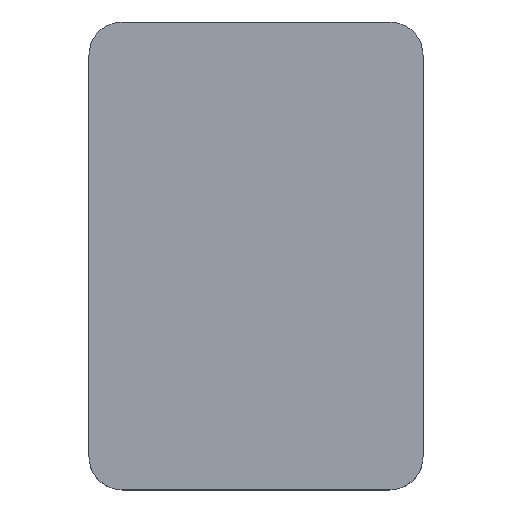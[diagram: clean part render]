
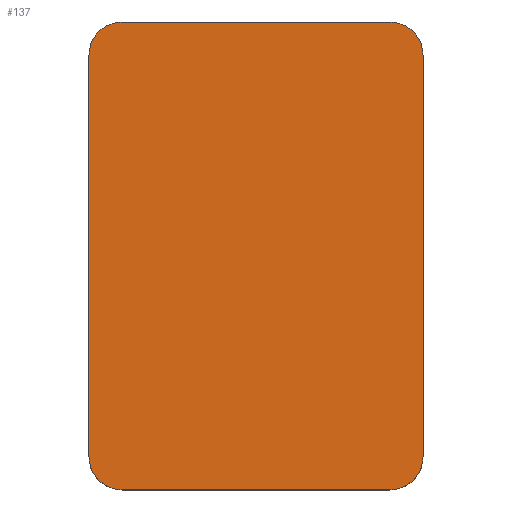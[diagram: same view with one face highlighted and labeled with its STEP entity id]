
A CAD part, top view. The second image highlights one B-rep face of the part: STEP entity #137.
In plain terms, the highlighted planar face has unit normal (0, 0, 1).
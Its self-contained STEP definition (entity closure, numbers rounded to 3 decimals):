
#21 = EDGE_CURVE('',#22,#24,#26,.T.);
#22 = VERTEX_POINT('',#23);
#23 = CARTESIAN_POINT('',(-5.,-21.5,15.2));
#24 = VERTEX_POINT('',#25);
#25 = CARTESIAN_POINT('',(-5.,-9.5,15.2));
#26 = SURFACE_CURVE('',#27,(#31,#43),.PCURVE_S1.);
#27 = LINE('',#28,#29);
#28 = CARTESIAN_POINT('',(-5.,-22.5,15.2));
#29 = VECTOR('',#30,1.);
#30 = DIRECTION('',(0.,1.,0.));
#31 = PCURVE('',#32,#37);
#32 = PLANE('',#33);
#33 = AXIS2_PLACEMENT_3D('',#34,#35,#36);
#34 = CARTESIAN_POINT('',(-5.,-22.5,13.2));
#35 = DIRECTION('',(1.,0.,0.));
#36 = DIRECTION('',(0.,0.,1.));
#37 = DEFINITIONAL_REPRESENTATION('',(#38),#42);
#38 = LINE('',#39,#40);
#39 = CARTESIAN_POINT('',(2.,0.));
#40 = VECTOR('',#41,1.);
#41 = DIRECTION('',(0.,-1.));
#42 = ( GEOMETRIC_REPRESENTATION_CONTEXT(2) 
PARAMETRIC_REPRESENTATION_CONTEXT() REPRESENTATION_CONTEXT('2D SPACE',''
  ) );
#43 = PCURVE('',#44,#49);
#44 = PLANE('',#45);
#45 = AXIS2_PLACEMENT_3D('',#46,#47,#48);
#46 = CARTESIAN_POINT('',(-5.,-22.5,15.2));
#47 = DIRECTION('',(0.,0.,1.));
#48 = DIRECTION('',(1.,0.,0.));
#49 = DEFINITIONAL_REPRESENTATION('',(#50),#54);
#50 = LINE('',#51,#52);
#51 = CARTESIAN_POINT('',(0.,0.));
#52 = VECTOR('',#53,1.);
#53 = DIRECTION('',(0.,1.));
#54 = ( GEOMETRIC_REPRESENTATION_CONTEXT(2) 
PARAMETRIC_REPRESENTATION_CONTEXT() REPRESENTATION_CONTEXT('2D SPACE',''
  ) );
#72 = CYLINDRICAL_SURFACE('',#73,1.);
#73 = AXIS2_PLACEMENT_3D('',#74,#75,#76);
#74 = CARTESIAN_POINT('',(-4.,-21.5,13.2));
#75 = DIRECTION('',(0.,0.,1.));
#76 = DIRECTION('',(-1.,-0.,0.));
#126 = CYLINDRICAL_SURFACE('',#127,1.);
#127 = AXIS2_PLACEMENT_3D('',#128,#129,#130);
#128 = CARTESIAN_POINT('',(-4.,-9.5,13.2));
#129 = DIRECTION('',(0.,0.,1.));
#130 = DIRECTION('',(-1.,-0.,0.));
#137 = ADVANCED_FACE('',(#138),#44,.T.);
#138 = FACE_BOUND('',#139,.T.);
#139 = EDGE_LOOP('',(#140,#141,#165,#193,#226,#254,#283,#311));
#140 = ORIENTED_EDGE('',*,*,#21,.F.);
#141 = ORIENTED_EDGE('',*,*,#142,.T.);
#142 = EDGE_CURVE('',#22,#143,#145,.T.);
#143 = VERTEX_POINT('',#144);
#144 = CARTESIAN_POINT('',(-4.,-22.5,15.2));
#145 = SURFACE_CURVE('',#146,(#151,#158),.PCURVE_S1.);
#146 = CIRCLE('',#147,1.);
#147 = AXIS2_PLACEMENT_3D('',#148,#149,#150);
#148 = CARTESIAN_POINT('',(-4.,-21.5,15.2));
#149 = DIRECTION('',(0.,0.,1.));
#150 = DIRECTION('',(0.,-1.,0.));
#151 = PCURVE('',#44,#152);
#152 = DEFINITIONAL_REPRESENTATION('',(#153),#157);
#153 = CIRCLE('',#154,1.);
#154 = AXIS2_PLACEMENT_2D('',#155,#156);
#155 = CARTESIAN_POINT('',(1.,1.));
#156 = DIRECTION('',(0.,-1.));
#157 = ( GEOMETRIC_REPRESENTATION_CONTEXT(2) 
PARAMETRIC_REPRESENTATION_CONTEXT() REPRESENTATION_CONTEXT('2D SPACE',''
  ) );
#158 = PCURVE('',#72,#159);
#159 = DEFINITIONAL_REPRESENTATION('',(#160),#164);
#160 = LINE('',#161,#162);
#161 = CARTESIAN_POINT('',(-4.712,2.));
#162 = VECTOR('',#163,1.);
#163 = DIRECTION('',(1.,0.));
#164 = ( GEOMETRIC_REPRESENTATION_CONTEXT(2) 
PARAMETRIC_REPRESENTATION_CONTEXT() REPRESENTATION_CONTEXT('2D SPACE',''
  ) );
#165 = ORIENTED_EDGE('',*,*,#166,.T.);
#166 = EDGE_CURVE('',#143,#167,#169,.T.);
#167 = VERTEX_POINT('',#168);
#168 = CARTESIAN_POINT('',(4.,-22.5,15.2));
#169 = SURFACE_CURVE('',#170,(#174,#181),.PCURVE_S1.);
#170 = LINE('',#171,#172);
#171 = CARTESIAN_POINT('',(-5.,-22.5,15.2));
#172 = VECTOR('',#173,1.);
#173 = DIRECTION('',(1.,0.,0.));
#174 = PCURVE('',#44,#175);
#175 = DEFINITIONAL_REPRESENTATION('',(#176),#180);
#176 = LINE('',#177,#178);
#177 = CARTESIAN_POINT('',(0.,0.));
#178 = VECTOR('',#179,1.);
#179 = DIRECTION('',(1.,0.));
#180 = ( GEOMETRIC_REPRESENTATION_CONTEXT(2) 
PARAMETRIC_REPRESENTATION_CONTEXT() REPRESENTATION_CONTEXT('2D SPACE',''
  ) );
#181 = PCURVE('',#182,#187);
#182 = PLANE('',#183);
#183 = AXIS2_PLACEMENT_3D('',#184,#185,#186);
#184 = CARTESIAN_POINT('',(-5.,-22.5,13.2));
#185 = DIRECTION('',(0.,1.,0.));
#186 = DIRECTION('',(0.,0.,1.));
#187 = DEFINITIONAL_REPRESENTATION('',(#188),#192);
#188 = LINE('',#189,#190);
#189 = CARTESIAN_POINT('',(2.,0.));
#190 = VECTOR('',#191,1.);
#191 = DIRECTION('',(0.,1.));
#192 = ( GEOMETRIC_REPRESENTATION_CONTEXT(2) 
PARAMETRIC_REPRESENTATION_CONTEXT() REPRESENTATION_CONTEXT('2D SPACE',''
  ) );
#193 = ORIENTED_EDGE('',*,*,#194,.F.);
#194 = EDGE_CURVE('',#195,#167,#197,.T.);
#195 = VERTEX_POINT('',#196);
#196 = CARTESIAN_POINT('',(5.,-21.5,15.2));
#197 = SURFACE_CURVE('',#198,(#203,#214),.PCURVE_S1.);
#198 = CIRCLE('',#199,1.);
#199 = AXIS2_PLACEMENT_3D('',#200,#201,#202);
#200 = CARTESIAN_POINT('',(4.,-21.5,15.2));
#201 = DIRECTION('',(-0.,-0.,-1.));
#202 = DIRECTION('',(0.,-1.,0.));
#203 = PCURVE('',#44,#204);
#204 = DEFINITIONAL_REPRESENTATION('',(#205),#213);
#205 = ( BOUNDED_CURVE() B_SPLINE_CURVE(2,(#206,#207,#208,#209,#210,#211
,#212),.UNSPECIFIED.,.T.,.F.) B_SPLINE_CURVE_WITH_KNOTS((1,2,2,2,2,1),(
    -2.094,0.,2.094,4.189,6.283,
8.378),.UNSPECIFIED.) CURVE() GEOMETRIC_REPRESENTATION_ITEM() 
RATIONAL_B_SPLINE_CURVE((1.,0.5,1.,0.5,1.,0.5,1.)) REPRESENTATION_ITEM(
  '') );
#206 = CARTESIAN_POINT('',(9.,0.));
#207 = CARTESIAN_POINT('',(7.268,0.));
#208 = CARTESIAN_POINT('',(8.134,1.5));
#209 = CARTESIAN_POINT('',(9.,3.));
#210 = CARTESIAN_POINT('',(9.866,1.5));
#211 = CARTESIAN_POINT('',(10.732,0.));
#212 = CARTESIAN_POINT('',(9.,0.));
#213 = ( GEOMETRIC_REPRESENTATION_CONTEXT(2) 
PARAMETRIC_REPRESENTATION_CONTEXT() REPRESENTATION_CONTEXT('2D SPACE',''
  ) );
#214 = PCURVE('',#215,#220);
#215 = CYLINDRICAL_SURFACE('',#216,1.);
#216 = AXIS2_PLACEMENT_3D('',#217,#218,#219);
#217 = CARTESIAN_POINT('',(4.,-21.5,13.2));
#218 = DIRECTION('',(0.,0.,1.));
#219 = DIRECTION('',(1.,0.,-0.));
#220 = DEFINITIONAL_REPRESENTATION('',(#221),#225);
#221 = LINE('',#222,#223);
#222 = CARTESIAN_POINT('',(4.712,2.));
#223 = VECTOR('',#224,1.);
#224 = DIRECTION('',(-1.,0.));
#225 = ( GEOMETRIC_REPRESENTATION_CONTEXT(2) 
PARAMETRIC_REPRESENTATION_CONTEXT() REPRESENTATION_CONTEXT('2D SPACE',''
  ) );
#226 = ORIENTED_EDGE('',*,*,#227,.T.);
#227 = EDGE_CURVE('',#195,#228,#230,.T.);
#228 = VERTEX_POINT('',#229);
#229 = CARTESIAN_POINT('',(5.,-9.5,15.2));
#230 = SURFACE_CURVE('',#231,(#235,#242),.PCURVE_S1.);
#231 = LINE('',#232,#233);
#232 = CARTESIAN_POINT('',(5.,-22.5,15.2));
#233 = VECTOR('',#234,1.);
#234 = DIRECTION('',(0.,1.,0.));
#235 = PCURVE('',#44,#236);
#236 = DEFINITIONAL_REPRESENTATION('',(#237),#241);
#237 = LINE('',#238,#239);
#238 = CARTESIAN_POINT('',(10.,0.));
#239 = VECTOR('',#240,1.);
#240 = DIRECTION('',(0.,1.));
#241 = ( GEOMETRIC_REPRESENTATION_CONTEXT(2) 
PARAMETRIC_REPRESENTATION_CONTEXT() REPRESENTATION_CONTEXT('2D SPACE',''
  ) );
#242 = PCURVE('',#243,#248);
#243 = PLANE('',#244);
#244 = AXIS2_PLACEMENT_3D('',#245,#246,#247);
#245 = CARTESIAN_POINT('',(5.,-22.5,13.2));
#246 = DIRECTION('',(1.,0.,0.));
#247 = DIRECTION('',(0.,0.,1.));
#248 = DEFINITIONAL_REPRESENTATION('',(#249),#253);
#249 = LINE('',#250,#251);
#250 = CARTESIAN_POINT('',(2.,0.));
#251 = VECTOR('',#252,1.);
#252 = DIRECTION('',(0.,-1.));
#253 = ( GEOMETRIC_REPRESENTATION_CONTEXT(2) 
PARAMETRIC_REPRESENTATION_CONTEXT() REPRESENTATION_CONTEXT('2D SPACE',''
  ) );
#254 = ORIENTED_EDGE('',*,*,#255,.T.);
#255 = EDGE_CURVE('',#228,#256,#258,.T.);
#256 = VERTEX_POINT('',#257);
#257 = CARTESIAN_POINT('',(4.,-8.5,15.2));
#258 = SURFACE_CURVE('',#259,(#264,#271),.PCURVE_S1.);
#259 = CIRCLE('',#260,1.);
#260 = AXIS2_PLACEMENT_3D('',#261,#262,#263);
#261 = CARTESIAN_POINT('',(4.,-9.5,15.2));
#262 = DIRECTION('',(0.,0.,1.));
#263 = DIRECTION('',(0.,-1.,0.));
#264 = PCURVE('',#44,#265);
#265 = DEFINITIONAL_REPRESENTATION('',(#266),#270);
#266 = CIRCLE('',#267,1.);
#267 = AXIS2_PLACEMENT_2D('',#268,#269);
#268 = CARTESIAN_POINT('',(9.,13.));
#269 = DIRECTION('',(0.,-1.));
#270 = ( GEOMETRIC_REPRESENTATION_CONTEXT(2) 
PARAMETRIC_REPRESENTATION_CONTEXT() REPRESENTATION_CONTEXT('2D SPACE',''
  ) );
#271 = PCURVE('',#272,#277);
#272 = CYLINDRICAL_SURFACE('',#273,1.);
#273 = AXIS2_PLACEMENT_3D('',#274,#275,#276);
#274 = CARTESIAN_POINT('',(4.,-9.5,13.2));
#275 = DIRECTION('',(0.,0.,1.));
#276 = DIRECTION('',(1.,0.,-0.));
#277 = DEFINITIONAL_REPRESENTATION('',(#278),#282);
#278 = LINE('',#279,#280);
#279 = CARTESIAN_POINT('',(-1.571,2.));
#280 = VECTOR('',#281,1.);
#281 = DIRECTION('',(1.,0.));
#282 = ( GEOMETRIC_REPRESENTATION_CONTEXT(2) 
PARAMETRIC_REPRESENTATION_CONTEXT() REPRESENTATION_CONTEXT('2D SPACE',''
  ) );
#283 = ORIENTED_EDGE('',*,*,#284,.F.);
#284 = EDGE_CURVE('',#285,#256,#287,.T.);
#285 = VERTEX_POINT('',#286);
#286 = CARTESIAN_POINT('',(-4.,-8.5,15.2));
#287 = SURFACE_CURVE('',#288,(#292,#299),.PCURVE_S1.);
#288 = LINE('',#289,#290);
#289 = CARTESIAN_POINT('',(-5.,-8.5,15.2));
#290 = VECTOR('',#291,1.);
#291 = DIRECTION('',(1.,0.,0.));
#292 = PCURVE('',#44,#293);
#293 = DEFINITIONAL_REPRESENTATION('',(#294),#298);
#294 = LINE('',#295,#296);
#295 = CARTESIAN_POINT('',(0.,14.));
#296 = VECTOR('',#297,1.);
#297 = DIRECTION('',(1.,0.));
#298 = ( GEOMETRIC_REPRESENTATION_CONTEXT(2) 
PARAMETRIC_REPRESENTATION_CONTEXT() REPRESENTATION_CONTEXT('2D SPACE',''
  ) );
#299 = PCURVE('',#300,#305);
#300 = PLANE('',#301);
#301 = AXIS2_PLACEMENT_3D('',#302,#303,#304);
#302 = CARTESIAN_POINT('',(-5.,-8.5,13.2));
#303 = DIRECTION('',(0.,1.,0.));
#304 = DIRECTION('',(0.,0.,1.));
#305 = DEFINITIONAL_REPRESENTATION('',(#306),#310);
#306 = LINE('',#307,#308);
#307 = CARTESIAN_POINT('',(2.,0.));
#308 = VECTOR('',#309,1.);
#309 = DIRECTION('',(0.,1.));
#310 = ( GEOMETRIC_REPRESENTATION_CONTEXT(2) 
PARAMETRIC_REPRESENTATION_CONTEXT() REPRESENTATION_CONTEXT('2D SPACE',''
  ) );
#311 = ORIENTED_EDGE('',*,*,#312,.F.);
#312 = EDGE_CURVE('',#24,#285,#313,.T.);
#313 = SURFACE_CURVE('',#314,(#319,#330),.PCURVE_S1.);
#314 = CIRCLE('',#315,1.);
#315 = AXIS2_PLACEMENT_3D('',#316,#317,#318);
#316 = CARTESIAN_POINT('',(-4.,-9.5,15.2));
#317 = DIRECTION('',(-0.,-0.,-1.));
#318 = DIRECTION('',(0.,-1.,0.));
#319 = PCURVE('',#44,#320);
#320 = DEFINITIONAL_REPRESENTATION('',(#321),#329);
#321 = ( BOUNDED_CURVE() B_SPLINE_CURVE(2,(#322,#323,#324,#325,#326,#327
,#328),.UNSPECIFIED.,.T.,.F.) B_SPLINE_CURVE_WITH_KNOTS((1,2,2,2,2,1),(
    -2.094,0.,2.094,4.189,6.283,
8.378),.UNSPECIFIED.) CURVE() GEOMETRIC_REPRESENTATION_ITEM() 
RATIONAL_B_SPLINE_CURVE((1.,0.5,1.,0.5,1.,0.5,1.)) REPRESENTATION_ITEM(
  '') );
#322 = CARTESIAN_POINT('',(1.,12.));
#323 = CARTESIAN_POINT('',(-0.732,12.));
#324 = CARTESIAN_POINT('',(0.134,13.5));
#325 = CARTESIAN_POINT('',(1.,15.));
#326 = CARTESIAN_POINT('',(1.866,13.5));
#327 = CARTESIAN_POINT('',(2.732,12.));
#328 = CARTESIAN_POINT('',(1.,12.));
#329 = ( GEOMETRIC_REPRESENTATION_CONTEXT(2) 
PARAMETRIC_REPRESENTATION_CONTEXT() REPRESENTATION_CONTEXT('2D SPACE',''
  ) );
#330 = PCURVE('',#126,#331);
#331 = DEFINITIONAL_REPRESENTATION('',(#332),#336);
#332 = LINE('',#333,#334);
#333 = CARTESIAN_POINT('',(1.571,2.));
#334 = VECTOR('',#335,1.);
#335 = DIRECTION('',(-1.,0.));
#336 = ( GEOMETRIC_REPRESENTATION_CONTEXT(2) 
PARAMETRIC_REPRESENTATION_CONTEXT() REPRESENTATION_CONTEXT('2D SPACE',''
  ) );
